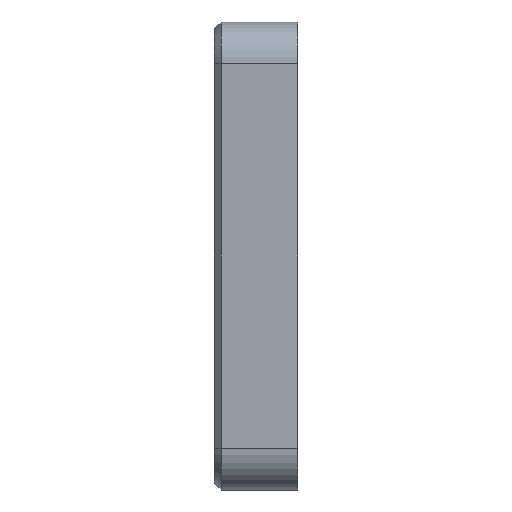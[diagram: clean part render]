
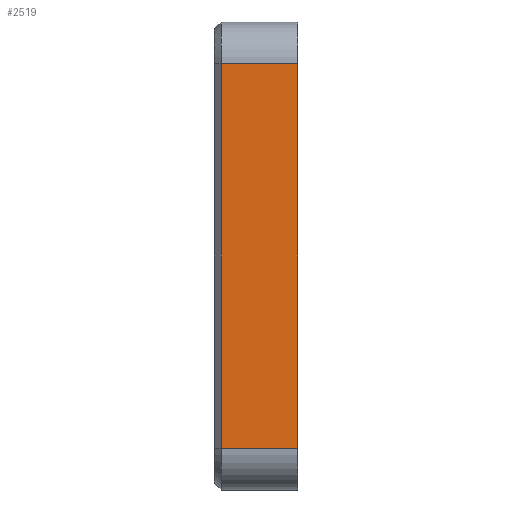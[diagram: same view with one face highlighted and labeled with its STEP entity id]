
A CAD part, left-side view. The second image highlights one B-rep face of the part: STEP entity #2519.
In plain terms, the highlighted planar face has unit normal (-1, 0, 0).
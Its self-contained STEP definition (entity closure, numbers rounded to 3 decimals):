
#52 = VECTOR ( 'NONE', #2462, 1000. ) ;
#138 = CARTESIAN_POINT ( 'NONE',  ( -84., 30., 69. ) ) ;
#494 = VERTEX_POINT ( 'NONE', #2205 ) ;
#545 = CARTESIAN_POINT ( 'NONE',  ( -84., 30., -69. ) ) ;
#747 = ORIENTED_EDGE ( 'NONE', *, *, #1978, .T. ) ;
#831 = CARTESIAN_POINT ( 'NONE',  ( -84., 27.5, 69. ) ) ;
#895 = LINE ( 'NONE', #545, #52 ) ;
#1052 = VECTOR ( 'NONE', #3562, 1000. ) ;
#1088 = EDGE_CURVE ( 'NONE', #3664, #2008, #3353, .T. ) ;
#1213 = EDGE_LOOP ( 'NONE', ( #2389, #2647, #1625, #747 ) ) ;
#1291 = VECTOR ( 'NONE', #2381, 1000. ) ;
#1388 = DIRECTION ( 'NONE',  ( 0., 0., -1. ) ) ;
#1625 = ORIENTED_EDGE ( 'NONE', *, *, #3127, .T. ) ;
#1648 = DIRECTION ( 'NONE',  ( 1., 0., 0. ) ) ;
#1654 = CARTESIAN_POINT ( 'NONE',  ( -84., 0., -84. ) ) ;
#1668 = AXIS2_PLACEMENT_3D ( 'NONE', #2599, #1648, #3876 ) ;
#1794 = LINE ( 'NONE', #1654, #1052 ) ;
#1978 = EDGE_CURVE ( 'NONE', #494, #2319, #1794, .T. ) ;
#2008 = VERTEX_POINT ( 'NONE', #2623 ) ;
#2132 = LINE ( 'NONE', #138, #1291 ) ;
#2166 = EDGE_CURVE ( 'NONE', #2319, #3664, #2132, .T. ) ;
#2205 = CARTESIAN_POINT ( 'NONE',  ( -84., 0., -69. ) ) ;
#2319 = VERTEX_POINT ( 'NONE', #4031 ) ;
#2381 = DIRECTION ( 'NONE',  ( 0., 1., 0. ) ) ;
#2389 = ORIENTED_EDGE ( 'NONE', *, *, #2166, .T. ) ;
#2462 = DIRECTION ( 'NONE',  ( 0., -1., 0. ) ) ;
#2519 = ADVANCED_FACE ( 'NONE', ( #3690 ), #3559, .F. ) ;
#2599 = CARTESIAN_POINT ( 'NONE',  ( -84., 30., -84. ) ) ;
#2623 = CARTESIAN_POINT ( 'NONE',  ( -84., 27.5, -69. ) ) ;
#2647 = ORIENTED_EDGE ( 'NONE', *, *, #1088, .T. ) ;
#2900 = VECTOR ( 'NONE', #1388, 1000. ) ;
#3127 = EDGE_CURVE ( 'NONE', #2008, #494, #895, .T. ) ;
#3297 = CARTESIAN_POINT ( 'NONE',  ( -84., 27.5, -69. ) ) ;
#3353 = LINE ( 'NONE', #3297, #2900 ) ;
#3559 = PLANE ( 'NONE',  #1668 ) ;
#3562 = DIRECTION ( 'NONE',  ( 0., 0., 1. ) ) ;
#3664 = VERTEX_POINT ( 'NONE', #831 ) ;
#3690 = FACE_OUTER_BOUND ( 'NONE', #1213, .T. ) ;
#3876 = DIRECTION ( 'NONE',  ( 0., 0., -1. ) ) ;
#4031 = CARTESIAN_POINT ( 'NONE',  ( -84., 0., 69. ) ) ;
